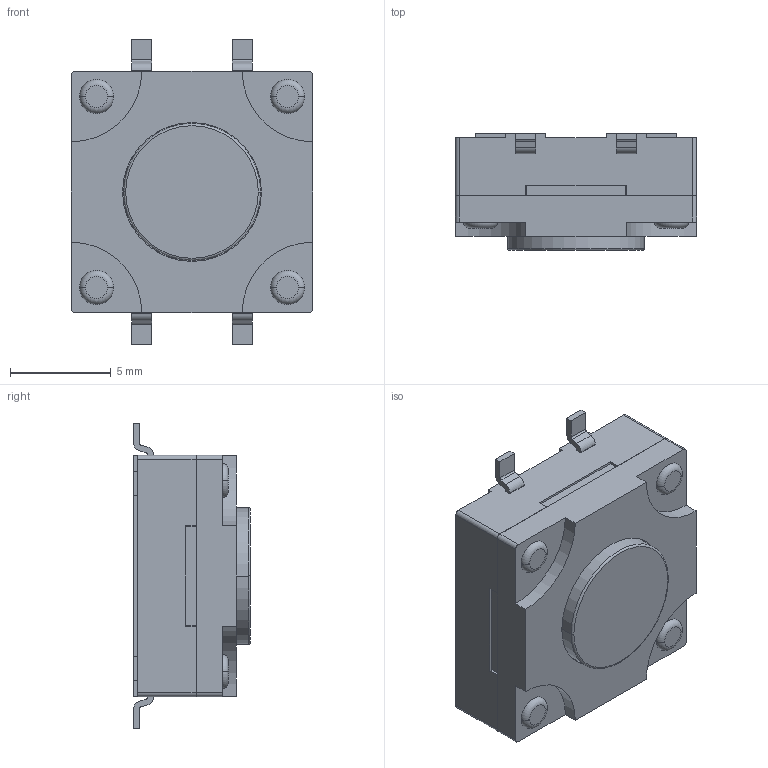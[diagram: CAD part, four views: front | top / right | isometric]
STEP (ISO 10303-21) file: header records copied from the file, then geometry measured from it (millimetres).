
FILE_DESCRIPTION((''),'2;1');
FILE_NAME('JQA1212BF-C0801-G-1-109_ASM','2026-05-13T16:36:54',('Admin'),(''),'CREO PARAMETRIC BY PTC INC, 2019224','CREO PARAMETRIC BY PTC INC, 2019224','');
FILE_SCHEMA(('AUTOMOTIVE_DESIGN { 1 0 10303 214 1 1 1 1 }'));
Length unit declared in the file: millimetre
Products named in the file (3): JQA1212BF-C0801-G-1-109_02; JQA1212BF-C0801-G-1-109_07; JQA1212BF-C0801-G-1-109_ASM
Assembly tree (2 placements, depth 2):
  JQA1212BF-C0801-G-1-109_ASM
    JQA1212BF-C0801-G-1-109_02
    JQA1212BF-C0801-G-1-109_07
Bounding box: 12 x 5.8 x 15.2 mm (x, y, z)
Volume: 717.4 mm3; surface area: 923.8 mm2
Topology: 2 solids, 2 shells, 179 faces, 482 edges, 334 vertices
Faces by surface type: plane 121, cylinder 48, torus 10
Entity records: 7904 total; most frequent: CARTESIAN_POINT 993, DIRECTION 986, ORIENTED_EDGE 944, PRESENTATION_STYLE_ASSIGNMENT 539, STYLED_ITEM 487, CURVE_STYLE 485, EDGE_CURVE 472, VECTOR 358
